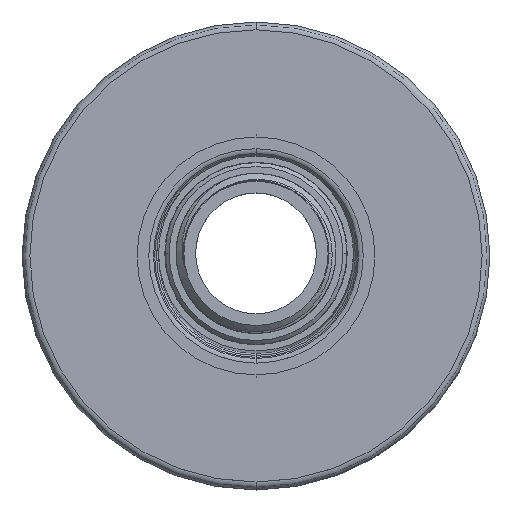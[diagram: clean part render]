
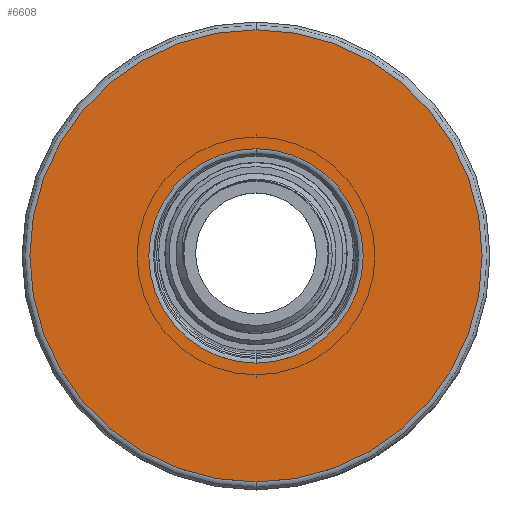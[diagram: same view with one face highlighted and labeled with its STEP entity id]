
A CAD part, top view. The second image highlights one B-rep face of the part: STEP entity #6608.
In plain terms, the highlighted planar face has unit normal (0, 0, 1) as drawn and (0, -1, 0) by its records, which use the part's own axes.
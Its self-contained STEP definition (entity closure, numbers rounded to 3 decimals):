
#6237=CARTESIAN_POINT('',(0.,0.,0.));
#6238=DIRECTION('',(0.,-1.,0.));
#6239=DIRECTION('',(0.,0.,1.));
#6240=AXIS2_PLACEMENT_3D('',#6237,#6238,#6239);
#6247=CARTESIAN_POINT('',(0.,0.,0.));
#6248=DIRECTION('',(0.,1.,0.));
#6249=DIRECTION('',(0.,0.,1.));
#6250=AXIS2_PLACEMENT_3D('',#6247,#6248,#6249);
#6257=CARTESIAN_POINT('',(0.,0.,0.));
#6258=DIRECTION('',(0.,-1.,0.));
#6259=DIRECTION('',(0.,0.,1.));
#6260=AXIS2_PLACEMENT_3D('',#6257,#6258,#6259);
#6262=CARTESIAN_POINT('',(0.,0.,0.));
#6263=DIRECTION('',(0.,1.,0.));
#6264=DIRECTION('',(0.,0.,1.));
#6265=AXIS2_PLACEMENT_3D('',#6262,#6263,#6264);
#6311=CARTESIAN_POINT('',(0.,0.,29.));
#6312=VERTEX_POINT('',#6311);
#6315=CARTESIAN_POINT('',(0.,0.,-29.));
#6316=VERTEX_POINT('',#6315);
#6319=CARTESIAN_POINT('',(0.,0.,13.75));
#6321=VERTEX_POINT('',#6319);
#6327=CARTESIAN_POINT('',(0.,0.,-13.75));
#6329=VERTEX_POINT('',#6327);
#6593=CARTESIAN_POINT('',(0.,0.,0.));
#6594=DIRECTION('',(0.,-1.,0.));
#6595=DIRECTION('',(0.,0.,1.));
#6596=AXIS2_PLACEMENT_3D('',#6593,#6594,#6595);
#6597=PLANE('',#6596);
#6599=ORIENTED_EDGE('',*,*,#6598,.F.);
#6601=ORIENTED_EDGE('',*,*,#6600,.T.);
#6602=EDGE_LOOP('',(#6599,#6601));
#6603=FACE_OUTER_BOUND('',#6602,.F.);
#6604=ORIENTED_EDGE('',*,*,#6586,.F.);
#6605=ORIENTED_EDGE('',*,*,#6575,.T.);
#6606=EDGE_LOOP('',(#6604,#6605));
#6607=FACE_BOUND('',#6606,.F.);
#6241=CIRCLE('',#6240,13.75);
#6251=CIRCLE('',#6250,13.75);
#6261=CIRCLE('',#6260,29.);
#6266=CIRCLE('',#6265,29.);
#6575=EDGE_CURVE('',#6321,#6329,#6241,.T.);
#6586=EDGE_CURVE('',#6321,#6329,#6251,.T.);
#6598=EDGE_CURVE('',#6312,#6316,#6261,.T.);
#6600=EDGE_CURVE('',#6312,#6316,#6266,.T.);
#6608=ADVANCED_FACE('',(#6603,#6607),#6597,.T.);
